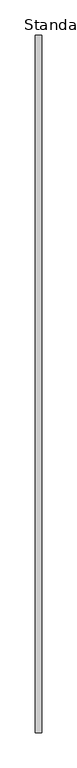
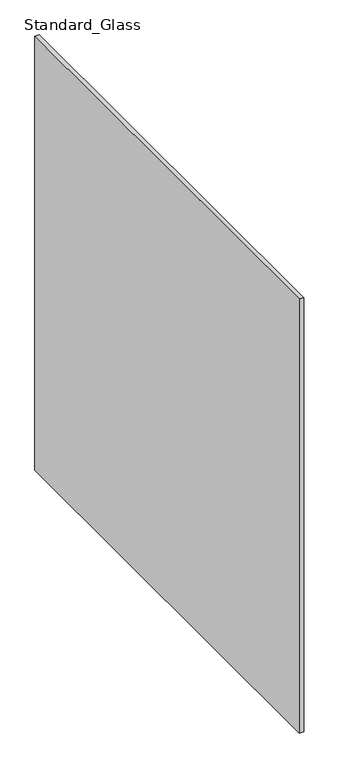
"""IFC4 building model written with IfcOpenShell, lengths in millimetres: railing geometry, Baluster-Excess-Fill-Straight-Panel-VIVA : Standard_Glass."""

from ifc_helpers import new_model, si_unit, frame, origin, place, context, project, spatial, polyline, outline, extrude, source, transform, mapped, element, save


def standard_glass_1c98aee0(model_context):
    return source(origin(), model_context, "Body", "SweptSolid", [
        extrude(outline(polyline([(36.7665, 1.0851207), (27.2415, 1.0851207), (27.2415, 996.9418182), (36.7665, 996.9418182), (36.7665, 1.0851207)])), frame((0.0, 0.0, 76.581), z_axis=(0.0, 0.0, 1.0), x_axis=(1.0, 0.0, 0.0)), (0.0, 0.0, 1.0), 998.22),
    ])


if __name__ == "__main__":
    model = new_model("IFC4")
    model_context = context("Model", 3, world=origin())
    ifc_project = project(units=[si_unit("LENGTHUNIT", "METRE", prefix="MILLI")], contexts=[model_context])
    site = spatial("IfcSite", under=ifc_project)
    building = spatial("IfcBuilding", under=site)
    placement = place(None, origin())
    standard_glass_shape = standard_glass_1c98aee0(model_context)
    element("IfcRailing", 1, ObjectType="Baluster-Excess-Fill-Straight-Panel-VIVA : Standard_Glass", at=placement, inside=building, context=model_context, shape_type="MappedRepresentation", body=[
        mapped(standard_glass_shape, transform((0.0, 0.0, 0.0), x_axis=(1.0, 0.0, 0.0), y_axis=(0.0, 1.0, 0.0), z_axis=(0.0, 0.0, 1.0))),
    ])
    save(model, "model.ifc")
